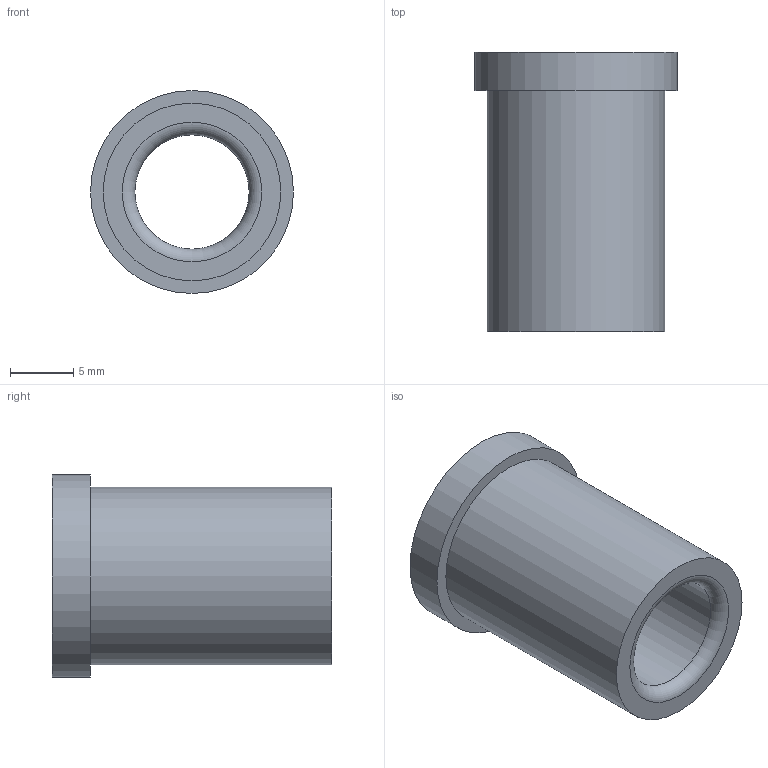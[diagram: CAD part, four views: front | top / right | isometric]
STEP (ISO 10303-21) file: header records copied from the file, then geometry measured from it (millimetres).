
FILE_DESCRIPTION(/* description */ ('STEP AP214'),/* implementation_level */ '2;1');
FILE_NAME(/* name */ '03_12_17832',/* time_stamp */ '2023-06-15T11:35:20+02:00',/* author */ ('License CC BY-ND 4.0'),/* organization */ ('CADENAS'),/* preprocessor_version */ 'ST-DEVELOPER v19.3',/* originating_system */ 'PARTsolutions',/* authorisation */ ' ');
FILE_SCHEMA (('AUTOMOTIVE_DESIGN {1 0 10303 214 3 1 1}'));
Length unit declared in the file: millimetre
Products named in the file (1): VA_Bushing_17832
Bounding box: 16 x 22 x 16 mm (x, y, z)
Volume: 2076.7 mm3; surface area: 1867.5 mm2
Topology: 1 solids, 1 shells, 10 faces, 16 edges, 10 vertices
Faces by surface type: cylinder 4, plane 4, torus 2
Full cylindrical faces by diameter (mm): 9 x1, 9.6 x1, 14 x1, 16 x1
Entity records: 302 total; most frequent: DIRECTION 42, CARTESIAN_POINT 31, AXIS2_PLACEMENT_3D 21, ORIENTED_EDGE 20, EDGE_LOOP 20, FACE_BOUND 20, EDGE_CURVE 10, VERTEX_POINT 10
